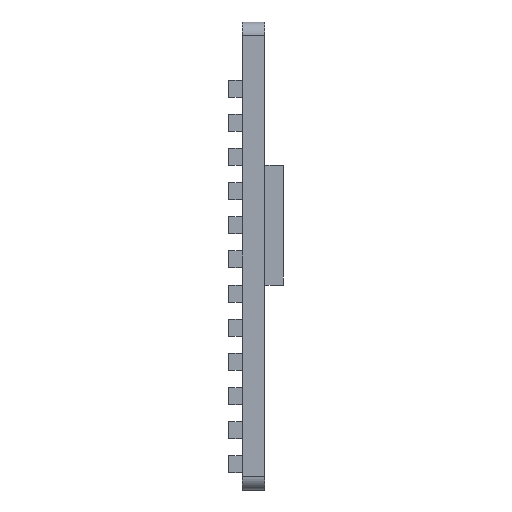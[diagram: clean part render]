
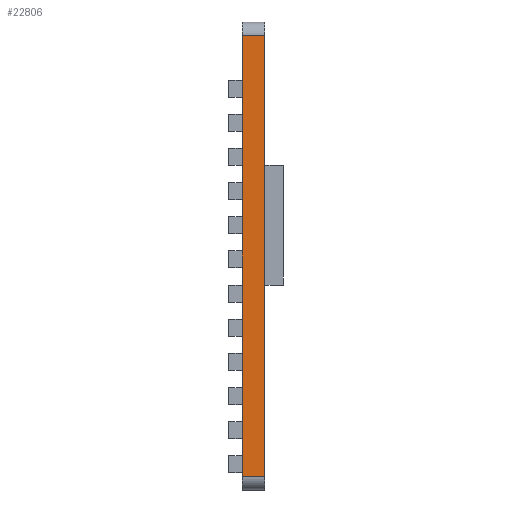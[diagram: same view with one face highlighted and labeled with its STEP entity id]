
A CAD part, left-side view. The second image highlights one B-rep face of the part: STEP entity #22806.
In plain terms, the highlighted planar face has unit normal (-1, 0, 0).
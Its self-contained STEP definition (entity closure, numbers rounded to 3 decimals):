
#769 = EDGE_CURVE ( 'NONE', #14583, #27185, #23203, .T. ) ;
#781 = ORIENTED_EDGE ( 'NONE', *, *, #11558, .T. ) ;
#1094 = DIRECTION ( 'NONE',  ( 0., -1., 0. ) ) ;
#1309 = ORIENTED_EDGE ( 'NONE', *, *, #2768, .T. ) ;
#2583 = CARTESIAN_POINT ( 'NONE',  ( -95., 0., 64.5 ) ) ;
#2768 = EDGE_CURVE ( 'NONE', #8463, #27185, #24181, .T. ) ;
#5625 = VECTOR ( 'NONE', #1094, 1000. ) ;
#6472 = CARTESIAN_POINT ( 'NONE',  ( -95., 6.5, -64.5 ) ) ;
#7690 = DIRECTION ( 'NONE',  ( 0., 0., 1. ) ) ;
#8043 = CARTESIAN_POINT ( 'NONE',  ( -95., 6.5, 64.5 ) ) ;
#8463 = VERTEX_POINT ( 'NONE', #2583 ) ;
#9140 = DIRECTION ( 'NONE',  ( 0., 1., 0. ) ) ;
#9300 = CARTESIAN_POINT ( 'NONE',  ( -95., 6.5, -64.5 ) ) ;
#10855 = EDGE_CURVE ( 'NONE', #14583, #28948, #30831, .T. ) ;
#11558 = EDGE_CURVE ( 'NONE', #28948, #8463, #27484, .T. ) ;
#11745 = DIRECTION ( 'NONE',  ( 1., 0., 0. ) ) ;
#11911 = PLANE ( 'NONE',  #17013 ) ;
#12985 = VECTOR ( 'NONE', #25181, 1000. ) ;
#14356 = CARTESIAN_POINT ( 'NONE',  ( -95., 6.5, -68.5 ) ) ;
#14583 = VERTEX_POINT ( 'NONE', #9300 ) ;
#14733 = VECTOR ( 'NONE', #9140, 1000. ) ;
#14747 = ORIENTED_EDGE ( 'NONE', *, *, #769, .F. ) ;
#15339 = EDGE_LOOP ( 'NONE', ( #781, #1309, #14747, #20184 ) ) ;
#17013 = AXIS2_PLACEMENT_3D ( 'NONE', #14356, #11745, #19279 ) ;
#19248 = VECTOR ( 'NONE', #7690, 1000. ) ;
#19279 = DIRECTION ( 'NONE',  ( 0., 0., -1. ) ) ;
#20184 = ORIENTED_EDGE ( 'NONE', *, *, #10855, .T. ) ;
#21572 = FACE_OUTER_BOUND ( 'NONE', #15339, .T. ) ;
#22267 = CARTESIAN_POINT ( 'NONE',  ( -95., 0., -68.5 ) ) ;
#22806 = ADVANCED_FACE ( 'NONE', ( #21572 ), #11911, .F. ) ;
#22881 = CARTESIAN_POINT ( 'NONE',  ( -95., 6.5, -68.5 ) ) ;
#23203 = LINE ( 'NONE', #22881, #19248 ) ;
#24181 = LINE ( 'NONE', #26312, #14733 ) ;
#25181 = DIRECTION ( 'NONE',  ( 0., 0., 1. ) ) ;
#26312 = CARTESIAN_POINT ( 'NONE',  ( -95., 6.5, 64.5 ) ) ;
#27185 = VERTEX_POINT ( 'NONE', #8043 ) ;
#27484 = LINE ( 'NONE', #22267, #12985 ) ;
#28948 = VERTEX_POINT ( 'NONE', #29857 ) ;
#29857 = CARTESIAN_POINT ( 'NONE',  ( -95., 0., -64.5 ) ) ;
#30831 = LINE ( 'NONE', #6472, #5625 ) ;
